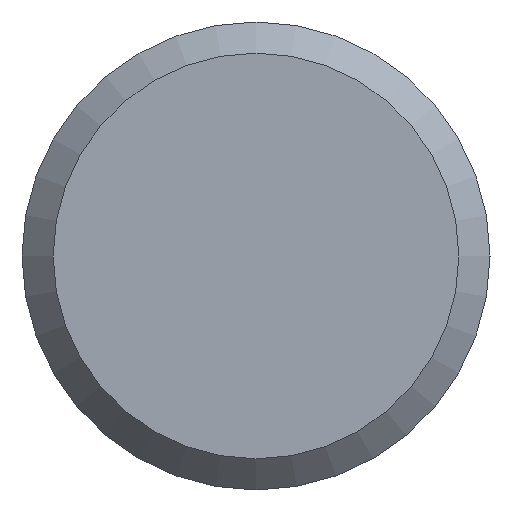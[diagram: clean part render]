
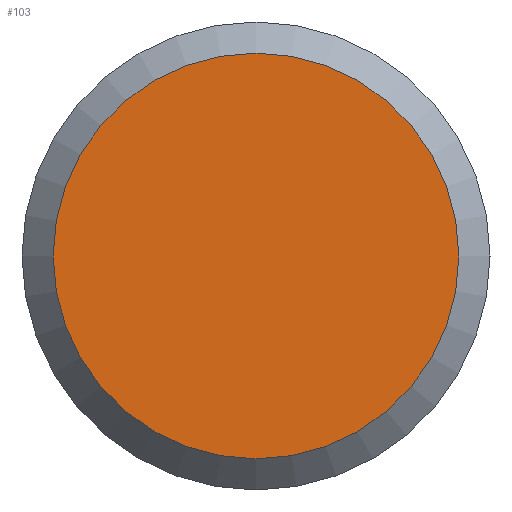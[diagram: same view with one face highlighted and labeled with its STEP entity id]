
A CAD part, left-side view. The second image highlights one B-rep face of the part: STEP entity #103.
In plain terms, the highlighted planar face has unit normal (-1, 0, 0).
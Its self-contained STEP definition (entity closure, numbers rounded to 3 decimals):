
#16=PLANE('',#138);
#30=FACE_OUTER_BOUND('',#36,.T.);
#36=EDGE_LOOP('',(#89));
#45=CIRCLE('',#137,6.5);
#53=VERTEX_POINT('',#197);
#65=EDGE_CURVE('',#53,#53,#45,.T.);
#89=ORIENTED_EDGE('',*,*,#65,.F.);
#103=ADVANCED_FACE('',(#30),#16,.F.);
#137=AXIS2_PLACEMENT_3D('',#199,#170,#171);
#138=AXIS2_PLACEMENT_3D('',#200,#172,#173);
#170=DIRECTION('center_axis',(1.,0.,0.));
#171=DIRECTION('ref_axis',(0.,-1.,0.));
#172=DIRECTION('center_axis',(1.,0.,0.));
#173=DIRECTION('ref_axis',(0.,0.,-1.));
#197=CARTESIAN_POINT('',(0.,6.5,0.));
#199=CARTESIAN_POINT('Origin',(0.,0.,0.));
#200=CARTESIAN_POINT('Origin',(0.,0.,0.));
